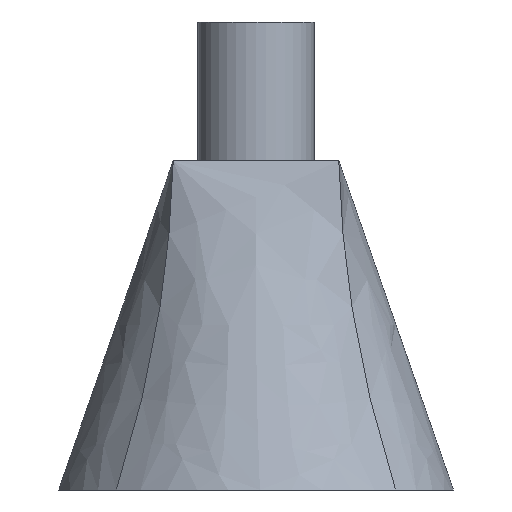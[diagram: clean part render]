
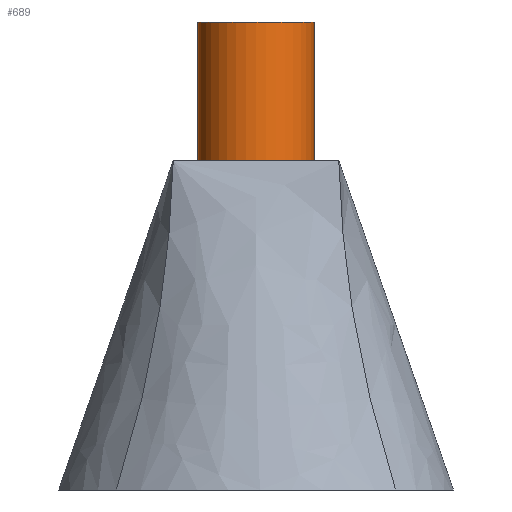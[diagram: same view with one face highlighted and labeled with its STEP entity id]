
A CAD part, front view. The second image highlights one B-rep face of the part: STEP entity #689.
In plain terms, the highlighted cylindrical face has radius 6.75 mm (diameter 13.5 mm), a full revolution.
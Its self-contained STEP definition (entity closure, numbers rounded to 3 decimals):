
#164 = PLANE('',#165);
#165 = AXIS2_PLACEMENT_3D('',#166,#167,#168);
#166 = CARTESIAN_POINT('',(9.6,0.,38.2));
#167 = DIRECTION('',(0.,0.,1.));
#168 = DIRECTION('',(-0.894,0.447,0.));
#600 = EDGE_CURVE('',#601,#601,#603,.T.);
#601 = VERTEX_POINT('',#602);
#602 = CARTESIAN_POINT('',(6.75,0.,38.2));
#603 = SURFACE_CURVE('',#604,(#609,#616),.PCURVE_S1.);
#604 = CIRCLE('',#605,6.75);
#605 = AXIS2_PLACEMENT_3D('',#606,#607,#608);
#606 = CARTESIAN_POINT('',(0.,0.,38.2));
#607 = DIRECTION('',(0.,0.,1.));
#608 = DIRECTION('',(1.,0.,0.));
#609 = PCURVE('',#164,#610);
#610 = DEFINITIONAL_REPRESENTATION('',(#611),#615);
#611 = CIRCLE('',#612,6.75);
#612 = AXIS2_PLACEMENT_2D('',#613,#614);
#613 = CARTESIAN_POINT('',(8.587,4.293));
#614 = DIRECTION('',(-0.894,-0.447));
#615 = ( GEOMETRIC_REPRESENTATION_CONTEXT(2) 
PARAMETRIC_REPRESENTATION_CONTEXT() REPRESENTATION_CONTEXT('2D SPACE',''
  ) );
#616 = PCURVE('',#617,#622);
#617 = CYLINDRICAL_SURFACE('',#618,6.75);
#618 = AXIS2_PLACEMENT_3D('',#619,#620,#621);
#619 = CARTESIAN_POINT('',(0.,0.,38.2));
#620 = DIRECTION('',(-0.,-0.,-1.));
#621 = DIRECTION('',(1.,0.,0.));
#622 = DEFINITIONAL_REPRESENTATION('',(#623),#627);
#623 = LINE('',#624,#625);
#624 = CARTESIAN_POINT('',(-0.,0.));
#625 = VECTOR('',#626,1.);
#626 = DIRECTION('',(-1.,0.));
#627 = ( GEOMETRIC_REPRESENTATION_CONTEXT(2) 
PARAMETRIC_REPRESENTATION_CONTEXT() REPRESENTATION_CONTEXT('2D SPACE',''
  ) );
#689 = ADVANCED_FACE('',(#690),#617,.T.);
#690 = FACE_BOUND('',#691,.F.);
#691 = EDGE_LOOP('',(#692,#715,#742,#743));
#692 = ORIENTED_EDGE('',*,*,#693,.T.);
#693 = EDGE_CURVE('',#601,#694,#696,.T.);
#694 = VERTEX_POINT('',#695);
#695 = CARTESIAN_POINT('',(6.75,0.,54.3));
#696 = SEAM_CURVE('',#697,(#701,#708),.PCURVE_S1.);
#697 = LINE('',#698,#699);
#698 = CARTESIAN_POINT('',(6.75,0.,38.2));
#699 = VECTOR('',#700,1.);
#700 = DIRECTION('',(0.,0.,1.));
#701 = PCURVE('',#617,#702);
#702 = DEFINITIONAL_REPRESENTATION('',(#703),#707);
#703 = LINE('',#704,#705);
#704 = CARTESIAN_POINT('',(-0.,0.));
#705 = VECTOR('',#706,1.);
#706 = DIRECTION('',(-0.,-1.));
#707 = ( GEOMETRIC_REPRESENTATION_CONTEXT(2) 
PARAMETRIC_REPRESENTATION_CONTEXT() REPRESENTATION_CONTEXT('2D SPACE',''
  ) );
#708 = PCURVE('',#617,#709);
#709 = DEFINITIONAL_REPRESENTATION('',(#710),#714);
#710 = LINE('',#711,#712);
#711 = CARTESIAN_POINT('',(-6.283,0.));
#712 = VECTOR('',#713,1.);
#713 = DIRECTION('',(-0.,-1.));
#714 = ( GEOMETRIC_REPRESENTATION_CONTEXT(2) 
PARAMETRIC_REPRESENTATION_CONTEXT() REPRESENTATION_CONTEXT('2D SPACE',''
  ) );
#715 = ORIENTED_EDGE('',*,*,#716,.T.);
#716 = EDGE_CURVE('',#694,#694,#717,.T.);
#717 = SURFACE_CURVE('',#718,(#723,#730),.PCURVE_S1.);
#718 = CIRCLE('',#719,6.75);
#719 = AXIS2_PLACEMENT_3D('',#720,#721,#722);
#720 = CARTESIAN_POINT('',(0.,0.,54.3));
#721 = DIRECTION('',(0.,0.,1.));
#722 = DIRECTION('',(1.,0.,0.));
#723 = PCURVE('',#617,#724);
#724 = DEFINITIONAL_REPRESENTATION('',(#725),#729);
#725 = LINE('',#726,#727);
#726 = CARTESIAN_POINT('',(-0.,-16.1));
#727 = VECTOR('',#728,1.);
#728 = DIRECTION('',(-1.,0.));
#729 = ( GEOMETRIC_REPRESENTATION_CONTEXT(2) 
PARAMETRIC_REPRESENTATION_CONTEXT() REPRESENTATION_CONTEXT('2D SPACE',''
  ) );
#730 = PCURVE('',#731,#736);
#731 = PLANE('',#732);
#732 = AXIS2_PLACEMENT_3D('',#733,#734,#735);
#733 = CARTESIAN_POINT('',(0.,0.,54.3)
  );
#734 = DIRECTION('',(0.,0.,1.));
#735 = DIRECTION('',(1.,0.,-0.));
#736 = DEFINITIONAL_REPRESENTATION('',(#737),#741);
#737 = CIRCLE('',#738,6.75);
#738 = AXIS2_PLACEMENT_2D('',#739,#740);
#739 = CARTESIAN_POINT('',(0.,0.));
#740 = DIRECTION('',(1.,0.));
#741 = ( GEOMETRIC_REPRESENTATION_CONTEXT(2) 
PARAMETRIC_REPRESENTATION_CONTEXT() REPRESENTATION_CONTEXT('2D SPACE',''
  ) );
#742 = ORIENTED_EDGE('',*,*,#693,.F.);
#743 = ORIENTED_EDGE('',*,*,#600,.F.);
